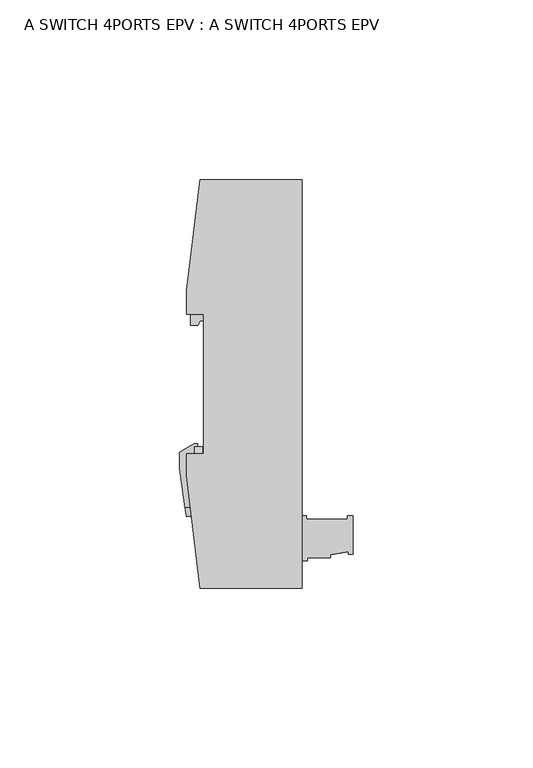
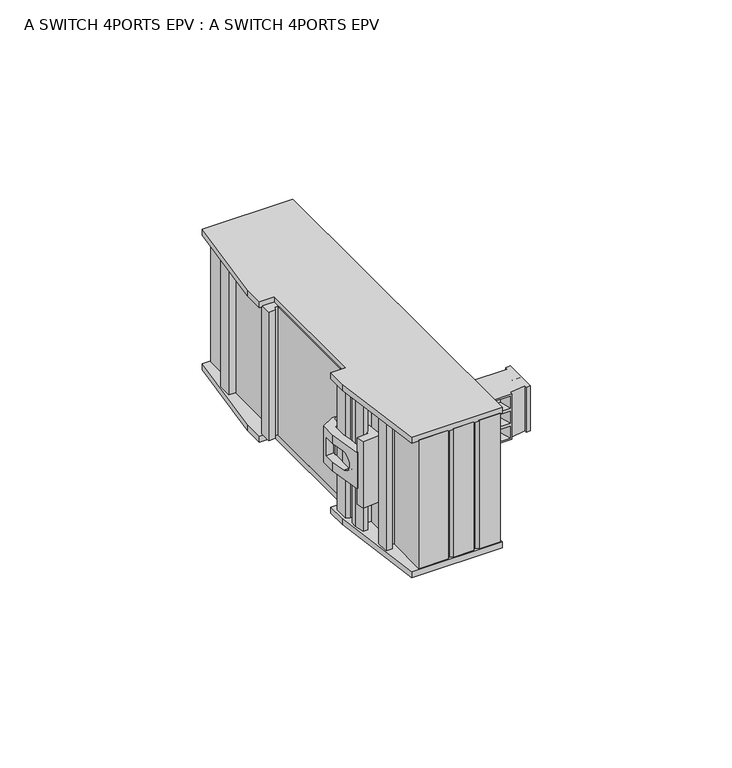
"""IFC4 building model written with IfcOpenShell, lengths in millimetres: proxy geometry, A SWITCH 4PORTS EPV : A SWITCH 4PORTS EPV."""

from ifc_helpers import new_model, si_unit, frame, origin, place, context, project, spatial, polyline, circle_curve, ellipse_curve, outline, extrude, faceted_brep, source, transform, mapped, element, save
from ifc_brep_helpers import plane_surface, revolved_surface, advanced_brep


def a_switch_4ports_epv_a_switch_4ports_epv_830ff617(model_context):
    return source(origin(), model_context, "Body", "SolidModel", [
        extrude(outline(polyline([(-17.5029682, 27.25), (-19.728818, 27.25), (-24.2482871, 35.08039), (-24.2482871, 36.8833137), (-17.5029682, 27.25)])), frame((-19.9, 0.0, 0.0), z_axis=(1.0, 0.0, 0.0), x_axis=(0.0, 1.0, 0.0)), (0.0, 0.0, 1.0), 2.1121316),
        extrude(outline(polyline([(-19.7288165, 15.25), (-17.5000001, 15.25), (-24.2246659, 5.6461819), (-24.2246659, 7.4629603), (-19.7288165, 15.25)])), frame((-19.9, 0.0, 0.0), z_axis=(1.0, 0.0, 0.0), x_axis=(0.0, 1.0, 0.0)), (0.0, 0.0, 1.0), 2.1121316),
        advanced_brep(
        [(-20.89202, -31.1381268, 27.25), (-21.0448647, -28.2216756, 27.25), (-21.583578, -24.8203742, 27.25), (-21.583578, -20.7024971, 27.25), (-19.8472021, -19.7, 27.25), (-17.7878685, -19.7, 27.25), (-17.7878685, -17.5029682, 27.25), (-19.1950388, -17.5029682, 27.25), (-19.1950388, -16.646717, 27.25), (-20.1525523, -16.646717, 27.25), (-24.1, -18.9257769, 27.25), (-24.1, -23.5892409, 27.25), (-22.582214, -34.3888493, 27.25), (-20.2951315, -34.208852, 27.25), (-20.89202, -31.1381268, 15.25), (-20.2951315, -34.208852, 15.25), (-22.582214, -34.3888493, 15.25), (-24.1, -23.5892409, 15.25), (-24.1, -18.9257769, 15.25), (-20.1525523, -16.646717, 15.25), (-19.1950388, -16.646717, 15.25), (-19.1950388, -17.5029682, 15.25), (-17.7878685, -17.5029682, 15.25), (-17.7878685, -19.7, 15.25), (-19.8472021, -19.7, 15.25), (-21.583578, -20.7024971, 15.25), (-21.583578, -24.8203742, 15.25), (-21.0448647, -28.2216756, 15.25), (-21.583578, -24.8203742, 18.1), (-21.583578, -24.8203742, 24.4), (-21.583578, -20.7024971, 24.4), (-21.583578, -20.7024971, 18.1), (-24.1, -23.5892409, 18.1), (-24.1, -20.0029599, 18.1), (-24.1, -20.0029599, 24.4), (-24.1, -23.5892409, 24.4), (-23.4130223, -28.4773414, 24.4), (-23.4130223, -28.4773414, 18.1), (-21.583578, -28.4773414, 18.1), (-21.583578, -28.4773414, 24.4), (-21.583578, -20.0029599, 24.4), (-21.583578, -20.0029599, 18.1)],
        [
            (0, 1),
            (1, 2),
            (2, 3),
            (3, 4),
            (4, 5),
            (5, 6),
            (6, 7),
            (7, 8),
            (8, 9),
            (9, 10),
            (10, 11),
            (11, 12),
            (12, 13),
            (13, 0),
            (14, 15),
            (15, 16),
            (16, 17),
            (17, 18),
            (18, 19),
            (19, 20),
            (20, 21),
            (21, 22),
            (22, 23),
            (23, 24),
            (24, 25),
            (25, 26),
            (26, 27),
            (27, 14),
            (0, 14),
            (27, 1),
            (26, 28),
            (28, 29),
            (29, 2),
            (29, 30),
            (30, 3),
            (25, 31),
            (31, 28),
            (30, 31),
            (24, 4),
            (7, 21),
            (20, 8),
            (19, 9),
            (18, 10),
            (17, 32),
            (32, 33),
            (33, 34),
            (34, 35),
            (35, 11),
            (35, 36),
            (36, 37, ellipse_curve(frame((-23.492213, -27.91387, 21.25), z_axis=(0.9902680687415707, 0.13917310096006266, 0.0), x_axis=(0.13917310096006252, -0.9902680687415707, 0.0)), 3.2314482, 3.2)),
            (37, 32),
            (16, 12),
            (15, 13),
            (38, 39, circle_curve(frame((-21.583578, -27.91387, 21.25), z_axis=(-1.0, 0.0, 0.0), x_axis=(0.0, -1.0, 0.0)), 3.2)),
            (39, 29),
            (28, 38),
            (40, 41),
            (41, 31),
            (30, 40),
            (40, 34),
            (33, 41),
            (39, 36),
            (38, 37),
            (23, 5),
            (22, 6),
        ],
        [
            plane_surface(frame((-20.89202, -31.1381268, 27.25), z_axis=(0.0, 0.0, 1.0), x_axis=(-0.05233595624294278, 0.9986295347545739, 0.0))),
            plane_surface(frame((-20.89202, -31.1381268, 15.25), z_axis=(0.0, 0.0, -1.0), x_axis=(0.05233595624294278, -0.9986295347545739, 0.0))),
            plane_surface(frame((-20.89202, -31.1381268, 27.25), z_axis=(0.9986295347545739, 0.05233595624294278, 0.0), x_axis=(0.0, 0.0, -1.0))),
            plane_surface(frame((-21.0448647, -28.2216756, 27.25), z_axis=(0.9876883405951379, 0.15643446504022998, 0.0), x_axis=(0.0, 0.0, -1.0))),
            plane_surface(frame((-21.583578, -24.8203742, 27.25), z_axis=(1.0, 0.0, 0.0), x_axis=(0.0, 0.0, -1.0))),
            plane_surface(frame((-21.583578, -20.7024971, 27.25), z_axis=(0.5000000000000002, -0.8660254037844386, 0.0), x_axis=(0.0, 0.0, -1.0))),
            plane_surface(frame((-19.1950388, -17.5029682, 27.25), z_axis=(1.0, 0.0, 0.0), x_axis=(0.0, 0.0, -1.0))),
            plane_surface(frame((-19.1950388, -16.646717, 27.25), z_axis=(0.0, 1.0, 0.0), x_axis=(0.0, 0.0, -1.0))),
            plane_surface(frame((-20.1525523, -16.646717, 27.25), z_axis=(-0.5000000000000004, 0.8660254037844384, 0.0), x_axis=(0.0, 0.0, -1.0))),
            plane_surface(frame((-24.1, -18.9257769, 27.25), z_axis=(-1.0, 0.0, 0.0), x_axis=(0.0, 0.0, -1.0))),
            plane_surface(frame((-24.1, -23.5892409, 27.25), z_axis=(-0.9902680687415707, -0.13917310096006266, 0.0), x_axis=(0.0, 0.0, -1.0))),
            plane_surface(frame((-22.582214, -34.3888493, 27.25), z_axis=(0.07845909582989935, -0.9969173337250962, 0.0), x_axis=(0.0, 0.0, -1.0))),
            plane_surface(frame((-20.2951315, -34.208852, 27.25), z_axis=(0.9816271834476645, 0.19080899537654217, 0.0), x_axis=(0.0, 0.0, -1.0))),
            plane_surface(frame((-21.583578, -20.0029599, 24.4), z_axis=(-1.0, 0.0, 0.0), x_axis=(0.0, 0.0, 1.0))),
            plane_surface(frame((-21.583578, -20.0029599, 18.1), z_axis=(0.0, -1.0, 0.0), x_axis=(-1.0, 0.0, 0.0))),
            plane_surface(frame((-21.583578, -20.0029599, 24.4), z_axis=(0.0, 0.0, -1.0), x_axis=(-1.0, 0.0, 0.0))),
            revolved_surface(polyline([(-21.583578, -31.11387, 21.25), (-23.94194366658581, -31.11387, 21.25)]), (-24.1, -27.91387, 21.25), (1.0, 0.0, 0.0)),
            plane_surface(frame((-21.583578, -28.4773414, 18.1), z_axis=(0.0, 0.0, 1.0), x_axis=(-1.0, 0.0, 0.0))),
            plane_surface(frame((-19.8472021, -19.7, 27.25), z_axis=(0.0, -1.0, 0.0), x_axis=(0.0, 0.0, -1.0))),
            plane_surface(frame((-17.7878685, -19.7, 27.25), z_axis=(1.0, 0.0, 0.0), x_axis=(0.0, 0.0, -1.0))),
            plane_surface(frame((-17.7878685, -17.5029682, 27.25), z_axis=(0.0, 1.0, 0.0), x_axis=(0.0, 0.0, -1.0))),
        ],
        [
            (0, [[1, 2, 3, 4, 5, 6, 7, 8, 9, 10, 11, 12, 13, 14]]),
            (1, [[15, 16, 17, 18, 19, 20, 21, 22, 23, 24, 25, 26, 27, 28]]),
            (2, [[-1, 29, -28, 30]]),
            (3, [[-2, -30, -27, 31, 32, 33]]),
            (4, [[-3, -33, 34, 35]]),
            (4, [[-26, 36, 37, -31]]),
            (5, [[-4, -35, 38, -36, -25, 39]]),
            (6, [[-8, 40, -21, 41]]),
            (7, [[-9, -41, -20, 42]]),
            (8, [[-10, -42, -19, 43]]),
            (9, [[-11, -43, -18, 44, 45, 46, 47, 48]]),
            (10, [[-12, -48, 49, 50, 51, -44, -17, 52]]),
            (11, [[-13, -52, -16, 53]]),
            (12, [[-14, -53, -15, -29]]),
            (13, [[54, 55, -32, 56]]),
            (13, [[57, 58, -38, 59]]),
            (14, [[-57, 60, -46, 61]]),
            (15, [[-60, -59, -34, -55, 62, -49, -47]]),
            (16, [[-54, 63, -50, -62]]),
            (17, [[-61, -45, -51, -63, -56, -37, -58]]),
            (18, [[-5, -39, -24, 64]]),
            (19, [[-6, -64, -23, 65]]),
            (20, [[-7, -65, -22, -40]]),
        ],
    ),
        extrude(outline(polyline([(-16.816644, -30.8466262), (-16.3269568, -36.4437755), (-22.1853549, -36.9563189), (-22.5410933, -34.4251081), (-18.9074894, -34.1391373), (-18.9074894, -31.0295515), (-16.816644, -30.8466262)])), frame((0.0, 0.0, 10.25), z_axis=(0.0, 0.0, 1.0), x_axis=(1.0, 0.0, 0.0)), (0.0, 0.0, 1.0), 22.0),
        advanced_brep(
        [(7.5, -36.65, 41.0), (7.5, -49.1613882, 41.0), (11.4133803, -49.1613882, 41.0), (11.4133803, -48.3177065, 41.0), (17.8, -48.3177065, 41.0), (17.8, -47.5, 41.0), (22.7801294, -46.6218688, 41.0), (22.7801294, -47.4201796, 41.0), (24.1, -47.4201796, 41.0), (24.1, -36.65, 41.0), (22.6, -36.65, 41.0), (22.6, -37.6, 41.0), (11.2, -37.6, 41.0), (11.2, -36.65, 41.0), (7.5, -36.65, 26.0), (11.2, -36.65, 26.0), (11.2, -37.6, 26.0), (22.6, -37.6, 26.0), (22.6, -36.65, 26.0), (24.1, -36.65, 26.0), (24.1, -47.4201796, 26.0), (22.7801294, -47.4201796, 26.0), (22.7801294, -46.6218688, 26.0), (17.8, -47.5, 26.0), (17.8, -48.3177065, 26.0), (11.4133803, -48.3177065, 26.0), (11.4133803, -49.1613882, 26.0), (7.5, -49.1613882, 26.0), (11.5913506, -48.3177065, 36.5), (11.5913506, -48.3177065, 40.5), (17.25, -48.3177065, 40.5), (17.25, -48.3177065, 36.5), (11.5913506, -48.3177065, 31.5), (11.5913506, -48.3177065, 35.5), (17.25, -48.3177065, 35.5), (17.25, -48.3177065, 31.5), (11.5913506, -48.3177065, 26.5), (11.5913506, -48.3177065, 30.5), (17.25, -48.3177065, 30.5), (17.25, -48.3177065, 26.5), (24.1, -40.921875, 38.5231713), (24.1, -44.921875, 38.5231713), (24.1, -40.921875, 33.4841088), (24.1, -44.921875, 33.4841088), (24.1, -40.921875, 28.5131094), (24.1, -44.921875, 28.5131094), (21.8000005, -44.921875, 38.5231713), (21.8000005, -40.921875, 38.5231713), (21.8000005, -44.921875, 33.4841088), (21.8000005, -40.921875, 33.4841088), (21.8000005, -44.921875, 28.5131094), (21.8000005, -40.921875, 28.5131094), (12.85, -45.5, 39.8), (12.85, -45.5, 37.2), (15.75, -45.5, 37.2), (15.75, -45.5, 39.8), (12.85, -45.5, 34.8), (12.85, -45.5, 32.2), (15.75, -45.5, 32.2), (15.75, -45.5, 34.8), (12.85, -45.5, 29.8), (12.85, -45.5, 27.2), (15.75, -45.5, 27.2), (15.75, -45.5, 29.8)],
        [
            (0, 1),
            (1, 2),
            (2, 3),
            (3, 4),
            (4, 5),
            (5, 6),
            (6, 7),
            (7, 8),
            (8, 9),
            (9, 10),
            (10, 11),
            (11, 12),
            (12, 13),
            (13, 0),
            (14, 15),
            (15, 16),
            (16, 17),
            (17, 18),
            (18, 19),
            (19, 20),
            (20, 21),
            (21, 22),
            (22, 23),
            (23, 24),
            (24, 25),
            (25, 26),
            (26, 27),
            (27, 14),
            (0, 14),
            (27, 1),
            (26, 2),
            (25, 3),
            (24, 4),
            (28, 29),
            (29, 30),
            (30, 31),
            (31, 28),
            (32, 33),
            (33, 34),
            (34, 35),
            (35, 32),
            (36, 37),
            (37, 38),
            (38, 39),
            (39, 36),
            (23, 5),
            (22, 6),
            (21, 7),
            (20, 8),
            (19, 9),
            (40, 41, circle_curve(frame((24.1, -42.921875, 38.5231713), z_axis=(-1.0, 0.0, 0.0), x_axis=(0.0, 1.0, 0.0)), 2.0)),
            (41, 40, circle_curve(frame((24.1, -42.921875, 38.5231713), z_axis=(-1.0, 0.0, 0.0), x_axis=(0.0, 1.0, 0.0)), 2.0)),
            (42, 43, circle_curve(frame((24.1, -42.921875, 33.4841088), z_axis=(-1.0, 0.0, 0.0), x_axis=(0.0, 1.0, 0.0)), 2.0)),
            (43, 42, circle_curve(frame((24.1, -42.921875, 33.4841088), z_axis=(-1.0, 0.0, 0.0), x_axis=(0.0, 1.0, 0.0)), 2.0)),
            (44, 45, circle_curve(frame((24.1, -42.921875, 28.5131094), z_axis=(-1.0, 0.0, 0.0), x_axis=(0.0, 1.0, 0.0)), 2.0)),
            (45, 44, circle_curve(frame((24.1, -42.921875, 28.5131094), z_axis=(-1.0, 0.0, 0.0), x_axis=(0.0, 1.0, 0.0)), 2.0)),
            (18, 10),
            (17, 11),
            (16, 12),
            (15, 13),
            (46, 47, circle_curve(frame((21.8000005, -42.921875, 38.5231713), z_axis=(1.0, 0.0, 0.0), x_axis=(0.0, 1.0, 0.0)), 2.0)),
            (47, 46, circle_curve(frame((21.8000005, -42.921875, 38.5231713), z_axis=(1.0, 0.0, 0.0), x_axis=(0.0, 1.0, 0.0)), 2.0)),
            (46, 41),
            (40, 47),
            (48, 49, circle_curve(frame((21.8000005, -42.921875, 33.4841088), z_axis=(1.0, 0.0, 0.0), x_axis=(0.0, 1.0, 0.0)), 2.0)),
            (49, 48, circle_curve(frame((21.8000005, -42.921875, 33.4841088), z_axis=(1.0, 0.0, 0.0), x_axis=(0.0, 1.0, 0.0)), 2.0)),
            (48, 43),
            (42, 49),
            (50, 51, circle_curve(frame((21.8000005, -42.921875, 28.5131094), z_axis=(1.0, 0.0, 0.0), x_axis=(0.0, 1.0, 0.0)), 2.0)),
            (51, 50, circle_curve(frame((21.8000005, -42.921875, 28.5131094), z_axis=(1.0, 0.0, 0.0), x_axis=(0.0, 1.0, 0.0)), 2.0)),
            (50, 45),
            (44, 51),
            (52, 53),
            (53, 54),
            (54, 55),
            (55, 52),
            (52, 29),
            (28, 53),
            (31, 54),
            (30, 55),
            (56, 57),
            (57, 58),
            (58, 59),
            (59, 56),
            (56, 33),
            (32, 57),
            (35, 58),
            (34, 59),
            (60, 61),
            (61, 62),
            (62, 63),
            (63, 60),
            (60, 37),
            (36, 61),
            (39, 62),
            (38, 63),
        ],
        [
            plane_surface(frame((7.5, -49.15, 41.0), z_axis=(0.0, 0.0, 1.0), x_axis=(0.0, -1.0, 0.0))),
            plane_surface(frame((7.5, -49.15, 26.0), z_axis=(0.0, 0.0, -1.0), x_axis=(0.0, 1.0, 0.0))),
            plane_surface(frame((7.5, -36.65, 41.0), z_axis=(-1.0, 0.0, 0.0), x_axis=(0.0, 0.0, -1.0))),
            plane_surface(frame((7.5, -49.1613882, 41.0), z_axis=(0.0, -1.0, 0.0), x_axis=(0.0, 0.0, -1.0))),
            plane_surface(frame((11.4133803, -49.1613882, 41.0), z_axis=(1.0, 0.0, 0.0), x_axis=(0.0, 0.0, -1.0))),
            plane_surface(frame((11.4133803, -48.3177065, 41.0), z_axis=(0.0, -1.0, 0.0), x_axis=(0.0, 0.0, -1.0))),
            plane_surface(frame((17.8, -48.3177065, 41.0), z_axis=(1.0, 0.0, 0.0), x_axis=(0.0, 0.0, -1.0))),
            plane_surface(frame((17.8, -47.5, 41.0), z_axis=(0.1736481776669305, -0.984807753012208, 0.0), x_axis=(0.0, 0.0, -1.0))),
            plane_surface(frame((22.7801294, -46.6218688, 41.0), z_axis=(-1.0, 0.0, 0.0), x_axis=(0.0, 0.0, -1.0))),
            plane_surface(frame((22.7801294, -47.4201796, 41.0), z_axis=(0.0, -1.0, 0.0), x_axis=(0.0, 0.0, -1.0))),
            plane_surface(frame((24.1, -47.4201796, 41.0), z_axis=(1.0, 0.0, 0.0), x_axis=(0.0, 0.0, -1.0))),
            plane_surface(frame((24.1, -36.65, 41.0), z_axis=(0.0, 1.0, 0.0), x_axis=(0.0, 0.0, -1.0))),
            plane_surface(frame((22.6, -36.65, 41.0), z_axis=(-1.0, 0.0, 0.0), x_axis=(0.0, 0.0, -1.0))),
            plane_surface(frame((22.6, -37.6, 41.0), z_axis=(0.0, 1.0, 0.0), x_axis=(0.0, 0.0, -1.0))),
            plane_surface(frame((11.2, -37.6, 41.0), z_axis=(1.0, 0.0, 0.0), x_axis=(0.0, 0.0, -1.0))),
            plane_surface(frame((11.2, -36.65, 41.0), z_axis=(0.0, 1.0, 0.0), x_axis=(0.0, 0.0, -1.0))),
            plane_surface(frame((21.8000005, -40.921875, 38.5231713), z_axis=(1.0, 0.0, 0.0), x_axis=(0.0, 0.0, -1.0))),
            revolved_surface(polyline([(24.1, -40.921875, 38.5231713), (21.8000005, -40.921875, 38.5231713)]), (21.8000005, -42.921875, 38.5231713), (1.0, 0.0, 0.0)),
            plane_surface(frame((21.8000005, -40.921875, 33.4841088), z_axis=(1.0, 0.0, 0.0), x_axis=(0.0, 0.0, -1.0))),
            revolved_surface(polyline([(24.1, -40.921875, 33.4841088), (21.8000005, -40.921875, 33.4841088)]), (21.8000005, -42.921875, 33.4841088), (1.0, 0.0, 0.0)),
            plane_surface(frame((21.8000005, -40.921875, 28.5131094), z_axis=(1.0, 0.0, 0.0), x_axis=(0.0, 0.0, -1.0))),
            revolved_surface(polyline([(24.1, -40.921875, 28.5131094), (21.8000005, -40.921875, 28.5131094)]), (21.8000005, -42.921875, 28.5131094), (1.0, 0.0, 0.0)),
            plane_surface(frame((14.3, -45.5, 38.5), z_axis=(0.0, -1.0, 0.0), x_axis=(0.0, 0.0, -1.0))),
            plane_surface(frame((12.85, -45.5, 38.5), z_axis=(0.9130480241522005, -0.40785206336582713, 0.0), x_axis=(0.0, 0.0, -1.0))),
            plane_surface(frame((14.3, -45.5, 37.2), z_axis=(0.0, -0.24110039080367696, 0.9705001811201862), x_axis=(1.0, 0.0, 0.0))),
            plane_surface(frame((15.75, -45.5, 38.5), z_axis=(-0.8827138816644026, -0.4699108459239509, 0.0), x_axis=(0.0, 0.0, 1.0))),
            plane_surface(frame((14.3, -45.5, 39.8), z_axis=(0.0, -0.24110039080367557, -0.9705001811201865), x_axis=(-1.0, 0.0, 0.0))),
            plane_surface(frame((14.3, -45.5, 33.5), z_axis=(0.0, -1.0, 0.0), x_axis=(0.0, 0.0, -1.0))),
            plane_surface(frame((12.85, -45.5, 33.5), z_axis=(0.9130480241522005, -0.40785206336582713, 0.0), x_axis=(0.0, 0.0, -1.0))),
            plane_surface(frame((14.3, -45.5, 32.2), z_axis=(0.0, -0.24110039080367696, 0.9705001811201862), x_axis=(1.0, 0.0, 0.0))),
            plane_surface(frame((15.75, -45.5, 33.5), z_axis=(-0.8827138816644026, -0.4699108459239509, 0.0), x_axis=(0.0, 0.0, 1.0))),
            plane_surface(frame((14.3, -45.5, 34.8), z_axis=(0.0, -0.24110039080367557, -0.9705001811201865), x_axis=(-1.0, 0.0, 0.0))),
            plane_surface(frame((14.3, -45.5, 28.5), z_axis=(0.0, -1.0, 0.0), x_axis=(0.0, 0.0, -1.0))),
            plane_surface(frame((12.85, -45.5, 28.5), z_axis=(0.9130480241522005, -0.40785206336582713, 0.0), x_axis=(0.0, 0.0, -1.0))),
            plane_surface(frame((14.3, -45.5, 27.2), z_axis=(0.0, -0.24110039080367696, 0.9705001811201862), x_axis=(1.0, 0.0, 0.0))),
            plane_surface(frame((15.75, -45.5, 28.5), z_axis=(-0.8827138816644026, -0.4699108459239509, 0.0), x_axis=(0.0, 0.0, 1.0))),
            plane_surface(frame((14.3, -45.5, 29.8), z_axis=(0.0, -0.24110039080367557, -0.9705001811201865), x_axis=(-1.0, 0.0, 0.0))),
        ],
        [
            (0, [[1, 2, 3, 4, 5, 6, 7, 8, 9, 10, 11, 12, 13, 14]]),
            (1, [[15, 16, 17, 18, 19, 20, 21, 22, 23, 24, 25, 26, 27, 28]]),
            (2, [[-1, 29, -28, 30]]),
            (3, [[-2, -30, -27, 31]]),
            (4, [[-3, -31, -26, 32]]),
            (5, [[-4, -32, -25, 33], [34, 35, 36, 37], [38, 39, 40, 41], [42, 43, 44, 45]]),
            (6, [[-5, -33, -24, 46]]),
            (7, [[-6, -46, -23, 47]]),
            (8, [[-7, -47, -22, 48]]),
            (9, [[-8, -48, -21, 49]]),
            (10, [[-9, -49, -20, 50], [51, 52], [53, 54], [55, 56]]),
            (11, [[-10, -50, -19, 57]]),
            (12, [[-11, -57, -18, 58]]),
            (13, [[-12, -58, -17, 59]]),
            (14, [[-13, -59, -16, 60]]),
            (15, [[-14, -60, -15, -29]]),
            (16, [[61, 62]]),
            (17, [[-61, 63, -51, 64]]),
            (17, [[-62, -64, -52, -63]]),
            (18, [[65, 66]]),
            (19, [[-65, 67, -53, 68]]),
            (19, [[-66, -68, -54, -67]]),
            (20, [[69, 70]]),
            (21, [[-69, 71, -55, 72]]),
            (21, [[-70, -72, -56, -71]]),
            (22, [[73, 74, 75, 76]]),
            (23, [[-73, 77, -34, 78]]),
            (24, [[-74, -78, -37, 79]]),
            (25, [[-75, -79, -36, 80]]),
            (26, [[-76, -80, -35, -77]]),
            (27, [[81, 82, 83, 84]]),
            (28, [[-81, 85, -38, 86]]),
            (29, [[-82, -86, -41, 87]]),
            (30, [[-83, -87, -40, 88]]),
            (31, [[-84, -88, -39, -85]]),
            (32, [[89, 90, 91, 92]]),
            (33, [[-89, 93, -42, 94]]),
            (34, [[-90, -94, -45, 95]]),
            (35, [[-91, -95, -44, 96]]),
            (36, [[-92, -96, -43, -93]]),
        ],
    ),
        extrude(outline(polyline([(-32.6438628, 42.07), (-16.6392876, 42.07), (-16.6392876, 25.4032718), (-32.6438628, 25.4032718), (-32.6438628, 42.07)]), holes=[polyline([(-18.1392876, 28.52), (-18.1392876, 36.77), (-31.1392876, 36.77), (-31.1392876, 28.52), (-28.3392876, 28.52), (-28.3392876, 26.92), (-27.2392876, 26.92), (-27.2392876, 25.57), (-22.0642876, 25.57), (-22.0642876, 26.92), (-20.9392876, 26.92), (-20.9392876, 28.52), (-18.1392876, 28.52)])]), frame((7.5, 0.0, 0.0), z_axis=(1.0, 0.0, 0.0), x_axis=(0.0, 1.0, 0.0)), (0.0, 0.0, 1.0), 1.0),
        extrude(outline(polyline([(-16.2159269, 42.07), (-0.2113518, 42.07), (-0.2113518, 25.4032718), (-16.2159269, 25.4032718), (-16.2159269, 42.07)]), holes=[polyline([(-1.7113518, 28.52), (-1.7113518, 36.77), (-14.7113518, 36.77), (-14.7113518, 28.52), (-11.9113518, 28.52), (-11.9113518, 26.92), (-10.8113518, 26.92), (-10.8113518, 25.57), (-5.6363518, 25.57), (-5.6363518, 26.92), (-4.5113518, 26.92), (-4.5113518, 28.52), (-1.7113518, 28.52)])]), frame((7.5, 0.0, 0.0), z_axis=(1.0, 0.0, 0.0), x_axis=(0.0, 1.0, 0.0)), (0.0, 0.0, 1.0), 1.0),
        extrude(outline(polyline([(0.2010245, 42.07), (16.2055997, 42.07), (16.2055997, 25.4032718), (0.2010245, 25.4032718), (0.2010245, 42.07)]), holes=[polyline([(14.7055997, 28.52), (14.7055997, 36.77), (1.7055997, 36.77), (1.7055997, 28.52), (4.5055997, 28.52), (4.5055997, 26.92), (5.6055997, 26.92), (5.6055997, 25.57), (10.7805997, 25.57), (10.7805997, 26.92), (11.9055997, 26.92), (11.9055997, 28.52), (14.7055997, 28.52)])]), frame((7.5, 0.0, 0.0), z_axis=(1.0, 0.0, 0.0), x_axis=(0.0, 1.0, 0.0)), (0.0, 0.0, 1.0), 1.0),
        extrude(outline(polyline([(16.5851865, 42.07), (32.5897617, 42.07), (32.5897617, 25.4032718), (16.5851865, 25.4032718), (16.5851865, 42.07)]), holes=[polyline([(31.0897617, 28.52), (31.0897617, 36.77), (18.0897617, 36.77), (18.0897617, 28.52), (20.8897617, 28.52), (20.8897617, 26.92), (21.9897617, 26.92), (21.9897617, 25.57), (27.1647617, 25.57), (27.1647617, 26.92), (28.2897617, 26.92), (28.2897617, 28.52), (31.0897617, 28.52)])]), frame((7.5, 0.0, 0.0), z_axis=(1.0, 0.0, 0.0), x_axis=(0.0, 1.0, 0.0)), (0.0, 0.0, 1.0), 1.0),
        extrude(outline(polyline([(32.9954249, 42.07), (49.0, 42.07), (49.0, 25.4032718), (32.9954249, 25.4032718), (32.9954249, 42.07)]), holes=[polyline([(47.5, 28.52), (47.5, 36.77), (34.5, 36.77), (34.5, 28.52), (37.3, 28.52), (37.3, 26.92), (38.4, 26.92), (38.4, 25.57), (43.575, 25.57), (43.575, 26.92), (44.7, 26.92), (44.7, 28.52), (47.5, 28.52)])]), frame((7.5, 0.0, 0.0), z_axis=(1.0, 0.0, 0.0), x_axis=(0.0, 1.0, 0.0)), (0.0, 0.0, 1.0), 1.0),
        faceted_brep([(-6.8, -56.5, 42.5), (-6.0, -55.7, 42.5), (-5.2, -56.5, 42.5), (1.2, -56.5, 42.5), (2.0, -55.7, 42.5), (2.8, -56.5, 42.5), (9.5170635, -56.5, 42.5), (9.5170635, -51.5, 42.5), (7.5, -51.5, 42.5), (7.5, 51.5, 42.5), (9.4958202, 51.5, 42.5), (9.4958202, 56.5, 42.5), (2.8, 56.5, 42.5), (2.0, 55.7, 42.5), (1.2, 56.5, 42.5), (-5.2, 56.5, 42.5), (-6.0, 55.7, 42.5), (-6.8, 56.5, 42.5), (-16.0152217, 56.5, 42.5), (-16.0152217, 43.0379708, 42.5), (-17.5792212, 43.0379708, 42.5), (-17.5792212, 44.9147702, 42.5), (-19.5733205, 44.9147702, 42.5), (-19.5733205, 40.3596216, 42.5), (-17.5010962, 40.3596216, 42.5), (-17.5010962, 19.9789457, 42.5), (-21.0089778, 19.9789457, 42.5), (-21.0089778, 16.2912528, 42.5), (-18.939948, 16.2912528, 42.5), (-18.5, 17.5, 42.5), (-17.5010962, 17.5, 42.5), (-17.5010962, -16.2284082, 42.5), (-16.9924506, -17.1094082, 42.5), (-16.9924506, -20.4980721, 42.5), (-16.0, -20.4980721, 42.5), (-16.0, -24.5736907, 42.5), (-19.9309452, -24.5736907, 42.5), (-19.9309452, -21.3625163, 42.5), (-21.3565858, -21.3625163, 42.5), (-21.3565858, -25.7335328, 42.5), (-20.1238053, -26.3083878, 42.5), (-15.9990419, -26.3083878, 42.5), (-15.9990419, -28.7, 42.5), (-20.8915047, -28.7, 42.5), (-20.8915047, -30.5114381, 42.5), (-20.3799269, -33.741413, 42.5), (-18.9074894, -33.741413, 42.5), (-18.9074894, -30.5580683, 42.5), (-15.9990419, -30.5580683, 42.5), (-15.9990419, -40.9471325, 42.5), (-19.5551202, -40.9471325, 42.5), (-19.5551202, -44.8451415, 42.5), (-17.6, -44.8451415, 42.5), (-17.6, -43.0, 42.5), (-15.9990419, -43.0, 42.5), (-15.9990419, -56.5, 42.5), (-6.8, -56.5, 0.0), (-15.9990419, -56.5, 0.0), (-15.9990419, -43.0, 0.0), (-17.6, -43.0, 0.0), (-17.6, -44.8451415, 0.0), (-19.5551202, -44.8451415, 0.0), (-19.5551202, -40.9471325, 0.0), (-15.9990419, -40.9471325, 0.0), (-15.9990419, -30.5580683, 0.0), (-18.9074894, -30.5580683, 0.0), (-18.9074894, -33.741413, 0.0), (-20.3799269, -33.741413, 0.0), (-20.8915047, -30.5114381, 0.0), (-20.8915047, -28.7, 0.0), (-15.9990419, -28.7, 0.0), (-15.9990419, -26.3083878, 0.0), (-20.1238053, -26.3083878, 0.0), (-21.3565858, -25.7335328, 0.0), (-21.3565858, -21.3625163, 0.0), (-19.9309452, -21.3625163, 0.0), (-19.9309452, -24.5736907, 0.0), (-16.0, -24.5736907, 0.0), (-16.0, -20.4980721, 0.0), (-16.9924506, -20.4980721, 0.0), (-16.9924506, -17.1094082, 0.0), (-17.5010962, -16.2284082, 0.0), (-17.5010962, 17.5, 0.0), (-18.5, 17.5, 0.0), (-18.939948, 16.2912528, 0.0), (-21.0089778, 16.2912528, 0.0), (-21.0089778, 19.9789457, 0.0), (-17.5010962, 19.9789457, 0.0), (-17.5010962, 40.3596216, 0.0), (-19.5733205, 40.3596216, 0.0), (-19.5733205, 44.9147702, 0.0), (-17.5792212, 44.9147702, 0.0), (-17.5792212, 43.0379708, 0.0), (-16.0152217, 43.0379708, 0.0), (-16.0152217, 56.5, 0.0), (-6.8, 56.5, 0.0), (-6.0, 55.7, 0.0), (-5.2, 56.5, 0.0), (1.2, 56.5, 0.0), (2.0, 55.7, 0.0), (2.8, 56.5, 0.0), (9.4958202, 56.5, 0.0), (9.4958202, 51.5, 0.0), (7.5, 51.5, 0.0), (7.5, -51.5, 0.0), (9.5170635, -51.5, 0.0), (9.5170635, -56.5, 0.0), (2.8, -56.5, 0.0), (2.0, -55.7, 0.0), (1.2, -56.5, 0.0), (-5.2, -56.5, 0.0), (-6.0, -55.7, 0.0), (7.5, 47.5, 36.77), (7.5, 47.5, 28.52), (7.5, 44.7, 28.52), (7.5, 44.7, 26.92), (7.5, 43.575, 26.92), (7.5, 43.575, 25.57), (7.5, 38.4, 25.57), (7.5, 38.4, 26.92), (7.5, 37.3, 26.92), (7.5, 37.3, 28.52), (7.5, 34.5, 28.52), (7.5, 34.5, 36.77), (7.5, 31.0897617, 36.77), (7.5, 31.0897617, 28.52), (7.5, 28.2897617, 28.52), (7.5, 28.2897617, 26.92), (7.5, 27.1647617, 26.92), (7.5, 27.1647617, 25.57), (7.5, 21.9897617, 25.57), (7.5, 21.9897617, 26.92), (7.5, 20.8897617, 26.92), (7.5, 20.8897617, 28.52), (7.5, 18.0897617, 28.52), (7.5, 18.0897617, 36.77), (7.5, 14.7055997, 36.77), (7.5, 14.7055997, 28.52), (7.5, 11.9055997, 28.52), (7.5, 11.9055997, 26.92), (7.5, 10.7805997, 26.92), (7.5, 10.7805997, 25.57), (7.5, 5.6055997, 25.57), (7.5, 5.6055997, 26.92), (7.5, 4.5055997, 26.92), (7.5, 4.5055997, 28.52), (7.5, 1.7055997, 28.52), (7.5, 1.7055997, 36.77), (7.5, -1.7113518, 36.77), (7.5, -1.7113518, 28.52), (7.5, -4.5113518, 28.52), (7.5, -4.5113518, 26.92), (7.5, -5.6363518, 26.92), (7.5, -5.6363518, 25.57), (7.5, -10.8113518, 25.57), (7.5, -10.8113518, 26.92), (7.5, -11.9113518, 26.92), (7.5, -11.9113518, 28.52), (7.5, -14.7113518, 28.52), (7.5, -14.7113518, 36.77), (7.5, -18.1392876, 36.77), (7.5, -18.1392876, 28.52), (7.5, -20.9392876, 28.52), (7.5, -20.9392876, 26.92), (7.5, -22.0642876, 26.92), (7.5, -22.0642876, 25.57), (7.5, -27.2392876, 25.57), (7.5, -27.2392876, 26.92), (7.5, -28.3392876, 26.92), (7.5, -28.3392876, 28.52), (7.5, -31.1392876, 28.52), (7.5, -31.1392876, 36.77), (7.5, -40.55, 25.25), (7.5, -38.15, 25.25), (7.5, -38.15, 19.85), (7.5, -40.55, 19.85), (-2.5309756, 47.5, 28.52), (-2.5309756, 47.5, 36.77), (-2.5309756, 34.5, 36.77), (-2.5309756, 34.5, 28.52), (-2.5309756, 37.3, 28.52), (-2.5309756, 37.3, 26.92), (-2.5309756, 38.4, 26.92), (-2.5309756, 38.4, 25.57), (-2.5309756, 43.575, 25.57), (-2.5309756, 43.575, 26.92), (-2.5309756, 44.7, 26.92), (-2.5309756, 44.7, 28.52), (-2.5309756, 31.0897617, 28.52), (-2.5309756, 31.0897617, 36.77), (-2.5309756, 18.0897617, 36.77), (-2.5309756, 18.0897617, 28.52), (-2.5309756, 20.8897617, 28.52), (-2.5309756, 20.8897617, 26.92), (-2.5309756, 21.9897617, 26.92), (-2.5309756, 21.9897617, 25.57), (-2.5309756, 27.1647617, 25.57), (-2.5309756, 27.1647617, 26.92), (-2.5309756, 28.2897617, 26.92), (-2.5309756, 28.2897617, 28.52), (-2.5309756, 14.7055997, 28.52), (-2.5309756, 14.7055997, 36.77), (-2.5309756, 1.7055997, 36.77), (-2.5309756, 1.7055997, 28.52), (-2.5309756, 4.5055997, 28.52), (-2.5309756, 4.5055997, 26.92), (-2.5309756, 5.6055997, 26.92), (-2.5309756, 5.6055997, 25.57), (-2.5309756, 10.7805997, 25.57), (-2.5309756, 10.7805997, 26.92), (-2.5309756, 11.9055997, 26.92), (-2.5309756, 11.9055997, 28.52), (-2.5309756, -1.7113518, 28.52), (-2.5309756, -1.7113518, 36.77), (-2.5309756, -14.7113518, 36.77), (-2.5309756, -14.7113518, 28.52), (-2.5309756, -11.9113518, 28.52), (-2.5309756, -11.9113518, 26.92), (-2.5309756, -10.8113518, 26.92), (-2.5309756, -10.8113518, 25.57), (-2.5309756, -5.6363518, 25.57), (-2.5309756, -5.6363518, 26.92), (-2.5309756, -4.5113518, 26.92), (-2.5309756, -4.5113518, 28.52), (-2.5309756, -18.1392876, 28.52), (-2.5309756, -18.1392876, 36.77), (-2.5309756, -31.1392876, 36.77), (-2.5309756, -31.1392876, 28.52), (-2.5309756, -28.3392876, 28.52), (-2.5309756, -28.3392876, 26.92), (-2.5309756, -27.2392876, 26.92), (-2.5309756, -27.2392876, 25.57), (-2.5309756, -22.0642876, 25.57), (-2.5309756, -22.0642876, 26.92), (-2.5309756, -20.9392876, 26.92), (-2.5309756, -20.9392876, 28.52), (6.5, -38.15, 25.25), (6.5, -40.55, 25.25), (6.5, -40.55, 19.85), (6.5, -38.15, 19.85)], [[[0, 1, 2, 3, 4, 5, 6, 7, 8, 9, 10, 11, 12, 13, 14, 15, 16, 17, 18, 19, 20, 21, 22, 23, 24, 25, 26, 27, 28, 29, 30, 31, 32, 33, 34, 35, 36, 37, 38, 39, 40, 41, 42, 43, 44, 45, 46, 47, 48, 49, 50, 51, 52, 53, 54, 55]], [[56, 57, 58, 59, 60, 61, 62, 63, 64, 65, 66, 67, 68, 69, 70, 71, 72, 73, 74, 75, 76, 77, 78, 79, 80, 81, 82, 83, 84, 85, 86, 87, 88, 89, 90, 91, 92, 93, 94, 95, 96, 97, 98, 99, 100, 101, 102, 103, 104, 105, 106, 107, 108, 109, 110, 111]], [[7, 6, 106, 105]], [[8, 7, 105, 104]], [[9, 8, 104, 103], [112, 113, 114, 115, 116, 117, 118, 119, 120, 121, 122, 123], [124, 125, 126, 127, 128, 129, 130, 131, 132, 133, 134, 135], [136, 137, 138, 139, 140, 141, 142, 143, 144, 145, 146, 147], [148, 149, 150, 151, 152, 153, 154, 155, 156, 157, 158, 159], [160, 161, 162, 163, 164, 165, 166, 167, 168, 169, 170, 171], [172, 173, 174, 175]], [[10, 9, 103, 102]], [[11, 10, 102, 101]], [[12, 11, 101, 100]], [[19, 18, 94, 93]], [[20, 19, 93, 92]], [[21, 20, 92, 91]], [[22, 21, 91, 90]], [[23, 22, 90, 89]], [[24, 23, 89, 88]], [[25, 24, 88, 87]], [[26, 25, 87, 86]], [[27, 26, 86, 85]], [[28, 27, 85, 84]], [[29, 28, 84, 83]], [[30, 29, 83, 82]], [[31, 30, 82, 81]], [[32, 31, 81, 80]], [[33, 32, 80, 79]], [[34, 33, 79, 78]], [[35, 34, 78, 77]], [[36, 35, 77, 76]], [[37, 36, 76, 75]], [[38, 37, 75, 74]], [[39, 38, 74, 73]], [[40, 39, 73, 72]], [[41, 40, 72, 71]], [[42, 41, 71, 70]], [[43, 42, 70, 69]], [[44, 43, 69, 68]], [[45, 44, 68, 67]], [[46, 45, 67, 66]], [[47, 46, 66, 65]], [[48, 47, 65, 64]], [[49, 48, 64, 63]], [[50, 49, 63, 62]], [[51, 50, 62, 61]], [[52, 51, 61, 60]], [[53, 52, 60, 59]], [[54, 53, 59, 58]], [[55, 54, 58, 57]], [[0, 55, 57, 56]], [[176, 177, 178, 179, 180, 181, 182, 183, 184, 185, 186, 187]], [[177, 176, 113, 112]], [[178, 177, 112, 123]], [[179, 178, 123, 122]], [[180, 179, 122, 121]], [[181, 180, 121, 120]], [[182, 181, 120, 119]], [[183, 182, 119, 118]], [[184, 183, 118, 117]], [[185, 184, 117, 116]], [[186, 185, 116, 115]], [[187, 186, 115, 114]], [[176, 187, 114, 113]], [[188, 189, 190, 191, 192, 193, 194, 195, 196, 197, 198, 199]], [[189, 188, 125, 124]], [[190, 189, 124, 135]], [[191, 190, 135, 134]], [[192, 191, 134, 133]], [[193, 192, 133, 132]], [[194, 193, 132, 131]], [[195, 194, 131, 130]], [[196, 195, 130, 129]], [[197, 196, 129, 128]], [[198, 197, 128, 127]], [[199, 198, 127, 126]], [[188, 199, 126, 125]], [[200, 201, 202, 203, 204, 205, 206, 207, 208, 209, 210, 211]], [[201, 200, 137, 136]], [[202, 201, 136, 147]], [[203, 202, 147, 146]], [[204, 203, 146, 145]], [[205, 204, 145, 144]], [[206, 205, 144, 143]], [[207, 206, 143, 142]], [[208, 207, 142, 141]], [[209, 208, 141, 140]], [[210, 209, 140, 139]], [[211, 210, 139, 138]], [[200, 211, 138, 137]], [[212, 213, 214, 215, 216, 217, 218, 219, 220, 221, 222, 223]], [[213, 212, 149, 148]], [[214, 213, 148, 159]], [[215, 214, 159, 158]], [[216, 215, 158, 157]], [[217, 216, 157, 156]], [[218, 217, 156, 155]], [[219, 218, 155, 154]], [[220, 219, 154, 153]], [[221, 220, 153, 152]], [[222, 221, 152, 151]], [[223, 222, 151, 150]], [[212, 223, 150, 149]], [[224, 225, 226, 227, 228, 229, 230, 231, 232, 233, 234, 235]], [[225, 224, 161, 160]], [[226, 225, 160, 171]], [[227, 226, 171, 170]], [[228, 227, 170, 169]], [[229, 228, 169, 168]], [[230, 229, 168, 167]], [[231, 230, 167, 166]], [[232, 231, 166, 165]], [[233, 232, 165, 164]], [[234, 233, 164, 163]], [[235, 234, 163, 162]], [[224, 235, 162, 161]], [[236, 237, 238, 239]], [[237, 236, 173, 172]], [[238, 237, 172, 175]], [[239, 238, 175, 174]], [[236, 239, 174, 173]], [[1, 0, 56, 111]], [[2, 1, 111, 110]], [[3, 2, 110, 109]], [[4, 3, 109, 108]], [[5, 4, 108, 107]], [[6, 5, 107, 106]], [[13, 12, 100, 99]], [[14, 13, 99, 98]], [[15, 14, 98, 97]], [[16, 15, 97, 96]], [[17, 16, 96, 95]], [[18, 17, 95, 94]]]),
        extrude(outline(polyline([(-22.2078425, 19.385159), (-22.2078425, 25.9361276), (-18.4276189, 56.7235787), (9.8788252, 56.7235787), (9.8788252, -56.763175), (-18.3679045, -56.763175), (-22.2, -25.5532616), (-22.2, -19.3746521), (-17.4753685, -19.3746521), (-17.4753685, 19.385159), (-22.2078425, 19.385159)])), frame((0.0, 0.0, -2.0), z_axis=(0.0, 0.0, 1.0), x_axis=(1.0, 0.0, 0.0)), (0.0, 0.0, 1.0), 2.0),
        extrude(outline(polyline([(-22.2078425, 19.385159), (-22.2078425, 25.9361276), (-18.4276189, 56.7235787), (9.8788252, 56.7235787), (9.8788252, -56.763175), (-18.3679045, -56.763175), (-22.2, -25.5532616), (-22.2, -19.3746521), (-17.4753685, -19.3746521), (-17.4753685, 19.385159), (-22.2078425, 19.385159)])), frame((0.0, 0.0, 42.5), z_axis=(0.0, 0.0, 1.0), x_axis=(1.0, 0.0, 0.0)), (0.0, 0.0, 1.0), 2.0),
    ])


if __name__ == "__main__":
    model = new_model("IFC4")
    model_context = context("Model", 3, world=origin())
    ifc_project = project(units=[si_unit("LENGTHUNIT", "METRE", prefix="MILLI")], contexts=[model_context])
    site = spatial("IfcSite", under=ifc_project)
    building = spatial("IfcBuilding", under=site)
    placement = place(None, origin())
    a_switch_4ports_epv_a_switch_4ports_epv_shape = a_switch_4ports_epv_a_switch_4ports_epv_830ff617(model_context)
    element("IfcBuildingElementProxy", 1, Name="A SWITCH 4PORTS EPV : A SWITCH 4PORTS EPV", ObjectType="A SWITCH 4PORTS EPV : A SWITCH 4PORTS EPV", at=placement, inside=building, context=model_context, shape_type="MappedRepresentation", body=[
        mapped(a_switch_4ports_epv_a_switch_4ports_epv_shape, transform((0.0, 0.0, 0.0), x_axis=(1.0, 0.0, 0.0), y_axis=(0.0, 1.0, 0.0), z_axis=(0.0, 0.0, 1.0))),
    ])
    save(model, "model.ifc")
